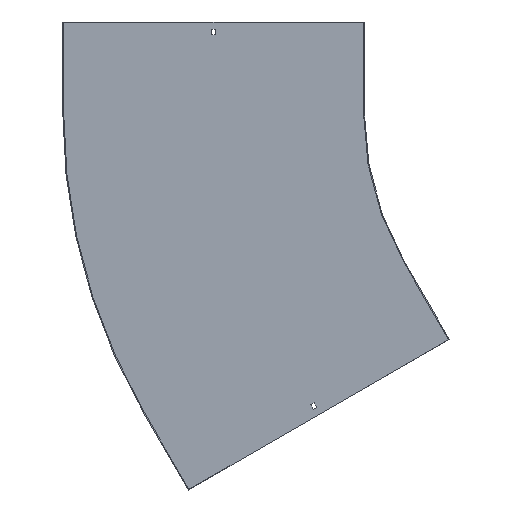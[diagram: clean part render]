
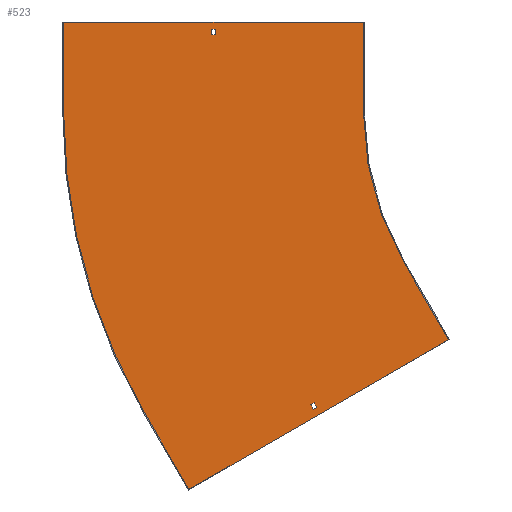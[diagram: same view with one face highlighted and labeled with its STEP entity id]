
A CAD part, front view. The second image highlights one B-rep face of the part: STEP entity #523.
In plain terms, the highlighted planar face has unit normal (0, -1, 0).
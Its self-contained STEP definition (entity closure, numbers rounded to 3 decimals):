
#1 = CIRCLE ( 'NONE', #457, 500. ) ;
#7 = CARTESIAN_POINT ( 'NONE',  ( 69., -1.5, -119.512 ) ) ;
#17 = ORIENTED_EDGE ( 'NONE', *, *, #539, .F. ) ;
#29 = CARTESIAN_POINT ( 'NONE',  ( -433.013, -1.5, -250. ) ) ;
#36 = LINE ( 'NONE', #302, #350 ) ;
#38 = VERTEX_POINT ( 'NONE', #792 ) ;
#42 = CARTESIAN_POINT ( 'NONE',  ( -577.704, -1.5, -492.887 ) ) ;
#53 = VECTOR ( 'NONE', #151, 1000. ) ;
#57 = VERTEX_POINT ( 'NONE', #385 ) ;
#66 = VERTEX_POINT ( 'NONE', #702 ) ;
#68 = DIRECTION ( 'NONE',  ( 0., 1., 0. ) ) ;
#77 = VERTEX_POINT ( 'NONE', #104 ) ;
#81 = VERTEX_POINT ( 'NONE', #237 ) ;
#85 = LINE ( 'NONE', #7, #404 ) ;
#87 = DIRECTION ( 'NONE',  ( 0., 0., -1. ) ) ;
#94 = VERTEX_POINT ( 'NONE', #42 ) ;
#98 = VERTEX_POINT ( 'NONE', #380 ) ;
#104 = CARTESIAN_POINT ( 'NONE',  ( -866.025, -1.5, -500. ) ) ;
#110 = ORIENTED_EDGE ( 'NONE', *, *, #754, .T. ) ;
#112 = VECTOR ( 'NONE', #116, 1000. ) ;
#115 = LINE ( 'NONE', #487, #591 ) ;
#116 = DIRECTION ( 'NONE',  ( 0.5, 0., -0.866 ) ) ;
#118 = CARTESIAN_POINT ( 'NONE',  ( -746.75, -1.5, 0. ) ) ;
#121 = EDGE_LOOP ( 'NONE', ( #800, #153, #396, #521, #361, #482, #586, #707 ) ) ;
#122 = DIRECTION ( 'NONE',  ( -0.5, 0., 0.866 ) ) ;
#123 = LINE ( 'NONE', #378, #299 ) ;
#146 = DIRECTION ( 'NONE',  ( 0., 0., -1. ) ) ;
#151 = DIRECTION ( 'NONE',  ( 0., 0., 1. ) ) ;
#153 = ORIENTED_EDGE ( 'NONE', *, *, #261, .F. ) ;
#154 = LINE ( 'NONE', #412, #315 ) ;
#160 = DIRECTION ( 'NONE',  ( 0., 0., 1. ) ) ;
#184 = DIRECTION ( 'NONE',  ( -1., 0., 0. ) ) ;
#195 = CARTESIAN_POINT ( 'NONE',  ( -582.204, -1.5, -485.092 ) ) ;
#197 = DIRECTION ( 'NONE',  ( 0., -1., 0. ) ) ;
#203 = VERTEX_POINT ( 'NONE', #696 ) ;
#214 = DIRECTION ( 'NONE',  ( 0., -1., 0. ) ) ;
#226 = VERTEX_POINT ( 'NONE', #433 ) ;
#227 = VECTOR ( 'NONE', #87, 1000. ) ;
#230 = EDGE_CURVE ( 'NONE', #94, #432, #356, .T. ) ;
#231 = CARTESIAN_POINT ( 'NONE',  ( -358.013, -1.5, -379.904 ) ) ;
#237 = CARTESIAN_POINT ( 'NONE',  ( -1000., -1.5, 0. ) ) ;
#246 = CIRCLE ( 'NONE', #725, 1000. ) ;
#259 = AXIS2_PLACEMENT_3D ( 'NONE', #668, #214, #146 ) ;
#261 = EDGE_CURVE ( 'NONE', #81, #455, #115, .T. ) ;
#266 = DIRECTION ( 'NONE',  ( 0., 0., -1. ) ) ;
#272 = CARTESIAN_POINT ( 'NONE',  ( -356.714, -1.5, -379.154 ) ) ;
#281 = VERTEX_POINT ( 'NONE', #826 ) ;
#285 = ORIENTED_EDGE ( 'NONE', *, *, #230, .F. ) ;
#299 = VECTOR ( 'NONE', #184, 1000. ) ;
#302 = CARTESIAN_POINT ( 'NONE',  ( -1001.5, -1.5, 150. ) ) ;
#315 = VECTOR ( 'NONE', #337, 1000. ) ;
#332 = DIRECTION ( 'NONE',  ( 0., 0., -1. ) ) ;
#337 = DIRECTION ( 'NONE',  ( 0.5, 0., -0.866 ) ) ;
#339 = FACE_BOUND ( 'NONE', #491, .T. ) ;
#348 = DIRECTION ( 'NONE',  ( 0.866, 0., 0.5 ) ) ;
#350 = VECTOR ( 'NONE', #748, 1000. ) ;
#352 = LINE ( 'NONE', #542, #53 ) ;
#356 = LINE ( 'NONE', #688, #810 ) ;
#361 = ORIENTED_EDGE ( 'NONE', *, *, #676, .F. ) ;
#378 = CARTESIAN_POINT ( 'NONE',  ( 0., -1.5, 129. ) ) ;
#380 = CARTESIAN_POINT ( 'NONE',  ( -500., -1.5, 150. ) ) ;
#385 = CARTESIAN_POINT ( 'NONE',  ( -791.025, -1.5, -629.904 ) ) ;
#388 = DIRECTION ( 'NONE',  ( 0., 0., -1. ) ) ;
#392 = CARTESIAN_POINT ( 'NONE',  ( 0., -1.5, 138. ) ) ;
#394 = VECTOR ( 'NONE', #655, 1000. ) ;
#396 = ORIENTED_EDGE ( 'NONE', *, *, #554, .F. ) ;
#400 = EDGE_CURVE ( 'NONE', #203, #407, #459, .T. ) ;
#404 = VECTOR ( 'NONE', #348, 1000. ) ;
#406 = EDGE_CURVE ( 'NONE', #38, #658, #1, .T. ) ;
#407 = VERTEX_POINT ( 'NONE', #795 ) ;
#410 = CARTESIAN_POINT ( 'NONE',  ( -791.025, -1.5, -629.904 ) ) ;
#412 = CARTESIAN_POINT ( 'NONE',  ( -433.013, -1.5, -250. ) ) ;
#416 = EDGE_CURVE ( 'NONE', #98, #38, #714, .T. ) ;
#418 = LINE ( 'NONE', #272, #788 ) ;
#432 = VERTEX_POINT ( 'NONE', #195 ) ;
#433 = CARTESIAN_POINT ( 'NONE',  ( -587.834, -1.5, -488.342 ) ) ;
#455 = VERTEX_POINT ( 'NONE', #811 ) ;
#456 = CARTESIAN_POINT ( 'NONE',  ( 0., -1.5, 0. ) ) ;
#457 = AXIS2_PLACEMENT_3D ( 'NONE', #456, #197, #266 ) ;
#459 = LINE ( 'NONE', #392, #394 ) ;
#473 = VERTEX_POINT ( 'NONE', #481 ) ;
#481 = CARTESIAN_POINT ( 'NONE',  ( -583.334, -1.5, -496.137 ) ) ;
#482 = ORIENTED_EDGE ( 'NONE', *, *, #786, .F. ) ;
#487 = CARTESIAN_POINT ( 'NONE',  ( -1000., -1.5, 0. ) ) ;
#489 = VECTOR ( 'NONE', #388, 1000. ) ;
#491 = EDGE_LOOP ( 'NONE', ( #285, #636, #692, #17 ) ) ;
#496 = EDGE_CURVE ( 'NONE', #57, #77, #543, .T. ) ;
#521 = ORIENTED_EDGE ( 'NONE', *, *, #496, .F. ) ;
#523 = ADVANCED_FACE ( 'NONE', ( #339, #807, #734 ), #730, .T. ) ;
#527 = EDGE_LOOP ( 'NONE', ( #701, #611, #110, #674 ) ) ;
#539 = EDGE_CURVE ( 'NONE', #432, #226, #659, .T. ) ;
#542 = CARTESIAN_POINT ( 'NONE',  ( -753.25, -1.5, 0. ) ) ;
#543 = LINE ( 'NONE', #410, #612 ) ;
#546 = DIRECTION ( 'NONE',  ( -0.866, 0., -0.5 ) ) ;
#554 = EDGE_CURVE ( 'NONE', #77, #81, #246, .T. ) ;
#571 = LINE ( 'NONE', #765, #112 ) ;
#585 = VERTEX_POINT ( 'NONE', #231 ) ;
#586 = ORIENTED_EDGE ( 'NONE', *, *, #406, .F. ) ;
#591 = VECTOR ( 'NONE', #160, 1000. ) ;
#597 = DIRECTION ( 'NONE',  ( -0.866, 0., -0.5 ) ) ;
#611 = ORIENTED_EDGE ( 'NONE', *, *, #671, .T. ) ;
#612 = VECTOR ( 'NONE', #737, 1000. ) ;
#636 = ORIENTED_EDGE ( 'NONE', *, *, #796, .F. ) ;
#650 = EDGE_CURVE ( 'NONE', #455, #98, #36, .T. ) ;
#655 = DIRECTION ( 'NONE',  ( 1., 0., 0. ) ) ;
#658 = VERTEX_POINT ( 'NONE', #29 ) ;
#659 = LINE ( 'NONE', #861, #854 ) ;
#668 = CARTESIAN_POINT ( 'NONE',  ( 0., -1.5, 0. ) ) ;
#671 = EDGE_CURVE ( 'NONE', #407, #66, #699, .T. ) ;
#674 = ORIENTED_EDGE ( 'NONE', *, *, #772, .T. ) ;
#676 = EDGE_CURVE ( 'NONE', #585, #57, #418, .T. ) ;
#688 = CARTESIAN_POINT ( 'NONE',  ( -646.704, -1.5, -373.375 ) ) ;
#692 = ORIENTED_EDGE ( 'NONE', *, *, #849, .F. ) ;
#696 = CARTESIAN_POINT ( 'NONE',  ( -753.25, -1.5, 138. ) ) ;
#699 = LINE ( 'NONE', #118, #227 ) ;
#701 = ORIENTED_EDGE ( 'NONE', *, *, #400, .T. ) ;
#702 = CARTESIAN_POINT ( 'NONE',  ( -746.75, -1.5, 129. ) ) ;
#707 = ORIENTED_EDGE ( 'NONE', *, *, #416, .F. ) ;
#708 = CARTESIAN_POINT ( 'NONE',  ( -500., -1.5, 150. ) ) ;
#714 = LINE ( 'NONE', #708, #489 ) ;
#725 = AXIS2_PLACEMENT_3D ( 'NONE', #741, #68, #332 ) ;
#730 = PLANE ( 'NONE',  #259 ) ;
#734 = FACE_BOUND ( 'NONE', #527, .T. ) ;
#737 = DIRECTION ( 'NONE',  ( -0.5, 0., 0.866 ) ) ;
#741 = CARTESIAN_POINT ( 'NONE',  ( 0., -1.5, 0. ) ) ;
#748 = DIRECTION ( 'NONE',  ( 1., 0., 0. ) ) ;
#754 = EDGE_CURVE ( 'NONE', #66, #281, #123, .T. ) ;
#765 = CARTESIAN_POINT ( 'NONE',  ( -652.334, -1.5, -376.625 ) ) ;
#772 = EDGE_CURVE ( 'NONE', #281, #203, #352, .T. ) ;
#786 = EDGE_CURVE ( 'NONE', #658, #585, #154, .T. ) ;
#788 = VECTOR ( 'NONE', #597, 1000. ) ;
#792 = CARTESIAN_POINT ( 'NONE',  ( -500., -1.5, 0. ) ) ;
#795 = CARTESIAN_POINT ( 'NONE',  ( -746.75, -1.5, 138. ) ) ;
#796 = EDGE_CURVE ( 'NONE', #473, #94, #85, .T. ) ;
#800 = ORIENTED_EDGE ( 'NONE', *, *, #650, .F. ) ;
#807 = FACE_OUTER_BOUND ( 'NONE', #121, .T. ) ;
#810 = VECTOR ( 'NONE', #122, 1000. ) ;
#811 = CARTESIAN_POINT ( 'NONE',  ( -1000., -1.5, 150. ) ) ;
#826 = CARTESIAN_POINT ( 'NONE',  ( -753.25, -1.5, 129. ) ) ;
#849 = EDGE_CURVE ( 'NONE', #226, #473, #571, .T. ) ;
#854 = VECTOR ( 'NONE', #546, 1000. ) ;
#861 = CARTESIAN_POINT ( 'NONE',  ( 64.5, -1.5, -111.717 ) ) ;
